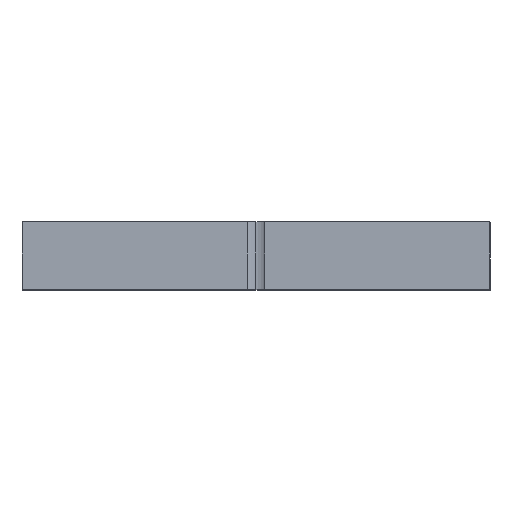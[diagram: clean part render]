
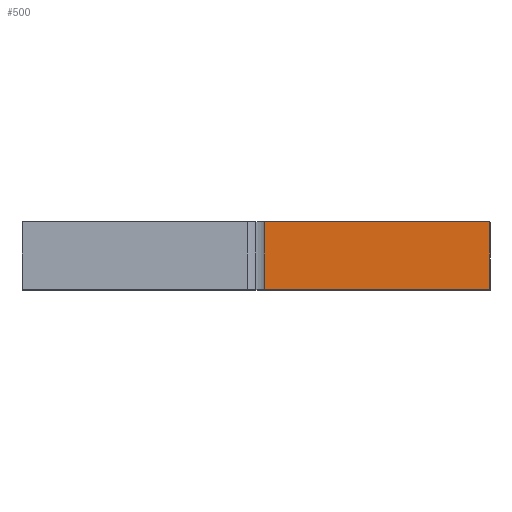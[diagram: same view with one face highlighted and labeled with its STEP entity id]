
A CAD part, top view. The second image highlights one B-rep face of the part: STEP entity #500.
In plain terms, the highlighted planar face has unit normal (0, 0, 1).
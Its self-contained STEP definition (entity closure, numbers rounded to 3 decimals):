
#38 = DIRECTION ( 'NONE',  ( 1., 0., 0. ) ) ;
#177 = EDGE_CURVE ( 'NONE', #2438, #2732, #5859, .T. ) ;
#365 = FACE_OUTER_BOUND ( 'NONE', #1967, .T. ) ;
#500 = ADVANCED_FACE ( 'NONE', ( #365 ), #1275, .T. ) ;
#652 = VERTEX_POINT ( 'NONE', #5783 ) ;
#1275 = PLANE ( 'NONE',  #2041 ) ;
#1411 = ORIENTED_EDGE ( 'NONE', *, *, #5870, .F. ) ;
#1967 = EDGE_LOOP ( 'NONE', ( #6271, #4373, #1411, #2022 ) ) ;
#1984 = DIRECTION ( 'NONE',  ( 0., 0., 1. ) ) ;
#2022 = ORIENTED_EDGE ( 'NONE', *, *, #177, .T. ) ;
#2041 = AXIS2_PLACEMENT_3D ( 'NONE', #3199, #1984, #38 ) ;
#2078 = CARTESIAN_POINT ( 'NONE',  ( -24.083, 0., 0. ) ) ;
#2438 = VERTEX_POINT ( 'NONE', #6592 ) ;
#2720 = DIRECTION ( 'NONE',  ( 1., 0., 0. ) ) ;
#2732 = VERTEX_POINT ( 'NONE', #4396 ) ;
#3054 = LINE ( 'NONE', #5244, #6749 ) ;
#3199 = CARTESIAN_POINT ( 'NONE',  ( 0., 0., 0. ) ) ;
#3235 = VECTOR ( 'NONE', #3635, 1000. ) ;
#3446 = VERTEX_POINT ( 'NONE', #3871 ) ;
#3628 = CARTESIAN_POINT ( 'NONE',  ( 0., -1.5, 0. ) ) ;
#3635 = DIRECTION ( 'NONE',  ( 1., 0., 0. ) ) ;
#3871 = CARTESIAN_POINT ( 'NONE',  ( 0., 7.2, 0. ) ) ;
#3980 = DIRECTION ( 'NONE',  ( 0., -1., 0. ) ) ;
#4272 = CARTESIAN_POINT ( 'NONE',  ( -50., 7.2, 0. ) ) ;
#4332 = LINE ( 'NONE', #4272, #3235 ) ;
#4373 = ORIENTED_EDGE ( 'NONE', *, *, #6391, .T. ) ;
#4396 = CARTESIAN_POINT ( 'NONE',  ( -24.083, 0., 0. ) ) ;
#5244 = CARTESIAN_POINT ( 'NONE',  ( 0., 0., 0. ) ) ;
#5783 = CARTESIAN_POINT ( 'NONE',  ( 0., 0., 0. ) ) ;
#5859 = LINE ( 'NONE', #2078, #6442 ) ;
#5870 = EDGE_CURVE ( 'NONE', #2438, #3446, #4332, .T. ) ;
#6027 = EDGE_CURVE ( 'NONE', #2732, #652, #3054, .T. ) ;
#6271 = ORIENTED_EDGE ( 'NONE', *, *, #6027, .T. ) ;
#6344 = LINE ( 'NONE', #3628, #6736 ) ;
#6391 = EDGE_CURVE ( 'NONE', #652, #3446, #6344, .T. ) ;
#6442 = VECTOR ( 'NONE', #3980, 1000. ) ;
#6592 = CARTESIAN_POINT ( 'NONE',  ( -24.083, 7.2, 0. ) ) ;
#6736 = VECTOR ( 'NONE', #6756, 1000. ) ;
#6749 = VECTOR ( 'NONE', #2720, 1000. ) ;
#6756 = DIRECTION ( 'NONE',  ( 0., 1., 0. ) ) ;
